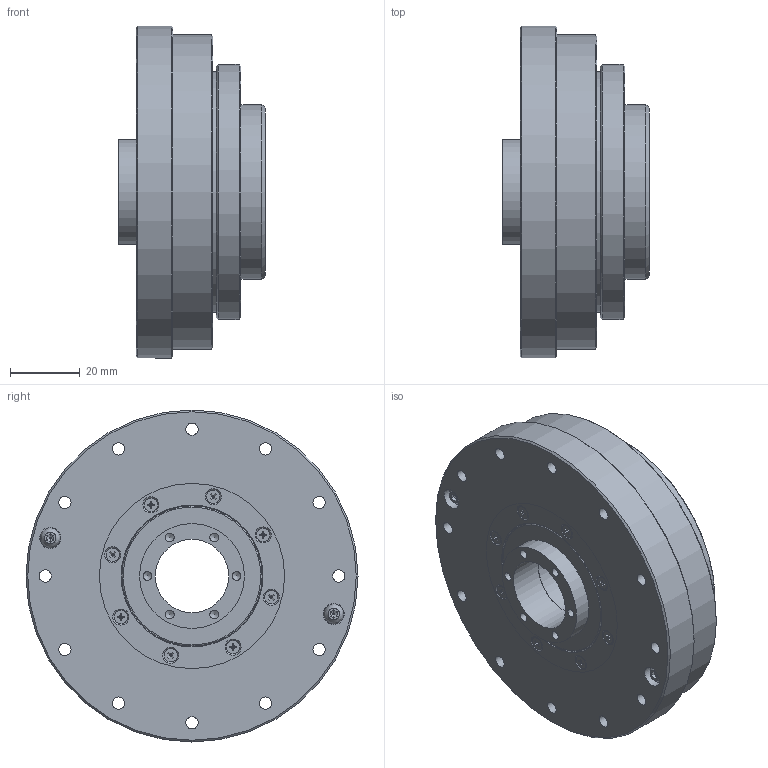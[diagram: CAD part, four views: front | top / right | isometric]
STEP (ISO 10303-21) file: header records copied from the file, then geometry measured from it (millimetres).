
FILE_DESCRIPTION (( 'STEP AP203' ), '1' );
FILE_NAME ('LHD-20-XXX-C(CL)-III.STEP', '2025-01-08T10:29:55', ( '' ), ( '' ), 'SwSTEP 2.0', 'SolidWorks 2023', '' );
FILE_SCHEMA (( 'CONFIG_CONTROL_DESIGN' ));
Length unit declared in the file: metre
Products named in the file (1): LHD-20-XXX-C(CL)-III
Bounding box: 42 x 95 x 95 mm (x, y, z)
Volume: 146392.6 mm3; surface area: 127228 mm2
Topology: 65 solids, 65 shells, 1383 faces, 3653 edges, 2303 vertices
Faces by surface type: plane 569, cylinder 329, bspline 310, cone 175
Full cylindrical faces by diameter (mm): 1.6 x8, 2 x8, 2.4 x8, 2.5 x34, 3 x16, 3.4 x6, 3.5 x72, 3.8 x8, 5.5 x12, 6 x10, 6.5 x6, 21 x2, 21.5 x1, 28.6 x2, 30 x6, 33 x2, 34 x6, 35.7 x1, 36 x1, 36.998 x1, 37 x1, 37.6 x2, 38 x4, 38.5 x1, 39 x2, 39.499 x2, 39.5 x1, 40 x4, 40.17 x1, 40.3 x1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
Entity records: 50342 total; most frequent: CARTESIAN_POINT 21010, ORIENTED_EDGE 5750, DIRECTION 5550, EDGE_CURVE 2875, AXIS2_PLACEMENT_3D 2393, EDGE_LOOP 2224, VERTEX_POINT 2099, FACE_OUTER_BOUND 1782
